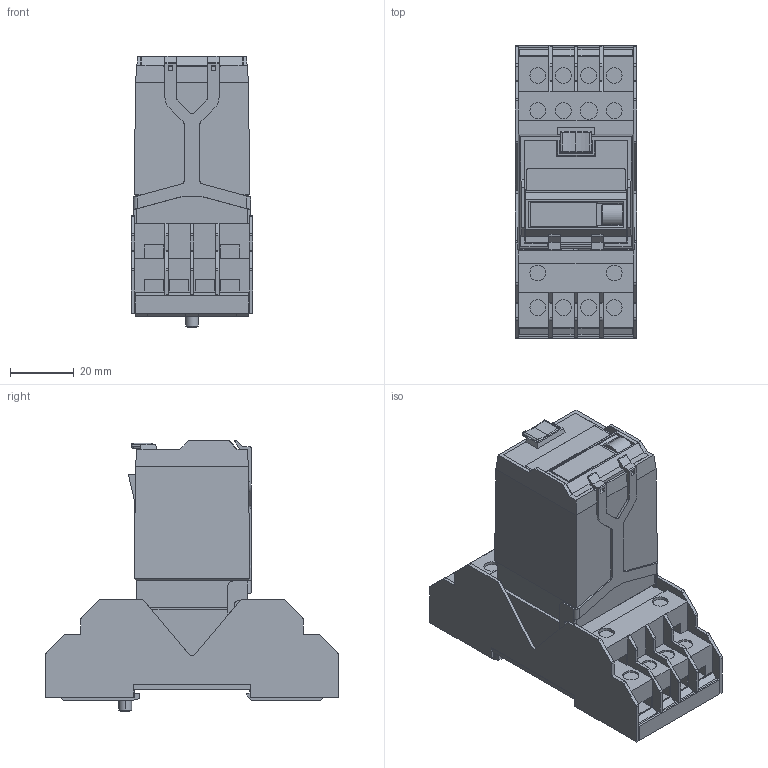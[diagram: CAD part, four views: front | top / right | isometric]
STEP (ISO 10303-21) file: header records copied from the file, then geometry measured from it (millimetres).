
FILE_DESCRIPTION (( 'STEP AP214' ), '1' );
FILE_NAME ('C4_plus_S4-J.STEP', '2024-04-04T07:47:35', ( '' ), ( '' ), 'SwSTEP 2.0', 'SolidWorks 2022', '' );
FILE_SCHEMA (( 'AUTOMOTIVE_DESIGN' ));
Length unit declared in the file: millimetre
Products named in the file (1): C4_plus_S4-J
Bounding box: 38.2 x 92 x 85.3 mm (x, y, z)
Volume: 141500.6 mm3; surface area: 29644.6 mm2
Topology: 1 solids, 23 shells, 884 faces, 2349 edges, 1510 vertices
Faces by surface type: plane 734, cylinder 134, cone 6, sphere 6, torus 4
Entity records: 36732 total; most frequent: CARTESIAN_POINT 5143, ORIENTED_EDGE 4686, DIRECTION 4221, EDGE_CURVE 2343, VECTOR 1925, LINE 1925, VERTEX_POINT 1510, AXIS2_PLACEMENT_3D 1148
